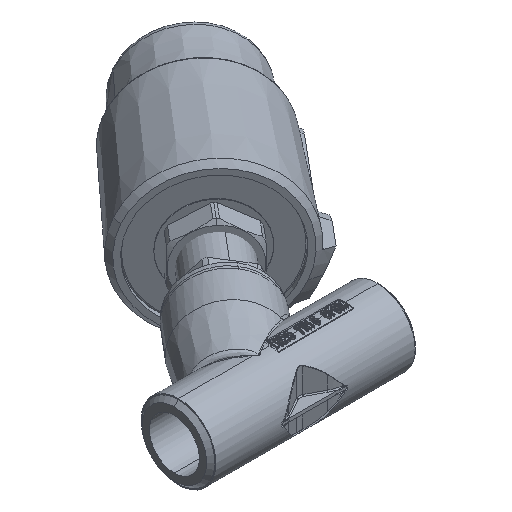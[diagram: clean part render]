
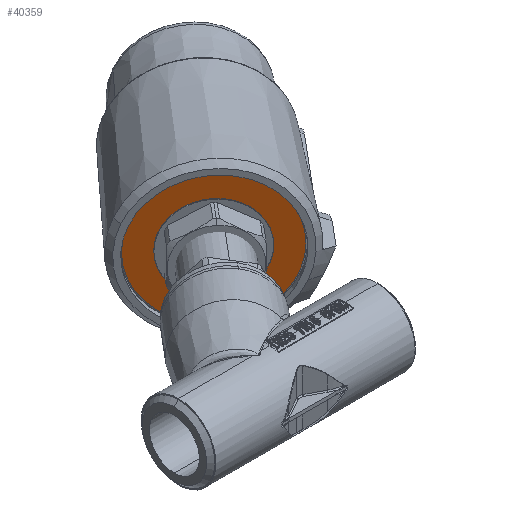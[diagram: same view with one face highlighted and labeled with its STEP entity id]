
A CAD part, isometric view. The second image highlights one B-rep face of the part: STEP entity #40359.
In plain terms, the highlighted planar face has unit normal (-0.643, -0.766, 0) as drawn and (0, -1, 0) by its records, which use the part's own axes.
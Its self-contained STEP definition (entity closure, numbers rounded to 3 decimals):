
#198 = CARTESIAN_POINT ( 'NONE',  ( 0., 0., 31.5 ) ) ;
#1266 = DIRECTION ( 'NONE',  ( 0., 1., 0. ) ) ;
#1757 = ORIENTED_EDGE ( 'NONE', *, *, #45800, .T. ) ;
#1774 = AXIS2_PLACEMENT_3D ( 'NONE', #32465, #1266, #26345 ) ;
#2031 = ORIENTED_EDGE ( 'NONE', *, *, #21799, .F. ) ;
#2705 = DIRECTION ( 'NONE',  ( 0., 0., 1. ) ) ;
#3542 = DIRECTION ( 'NONE',  ( 0., -1., 0. ) ) ;
#5604 = AXIS2_PLACEMENT_3D ( 'NONE', #25024, #3542, #28637 ) ;
#5991 = DIRECTION ( 'NONE',  ( 0., -1., 0. ) ) ;
#6356 = CIRCLE ( 'NONE', #29098, 31.5 ) ;
#6730 = FACE_OUTER_BOUND ( 'NONE', #21773, .T. ) ;
#9158 = VERTEX_POINT ( 'NONE', #16240 ) ;
#11514 = CARTESIAN_POINT ( 'NONE',  ( 0., 0., 20.5 ) ) ;
#13927 = CIRCLE ( 'NONE', #21661, 31.5 ) ;
#15531 = PLANE ( 'NONE',  #1774 ) ;
#16240 = CARTESIAN_POINT ( 'NONE',  ( 0., 0., -31.5 ) ) ;
#17055 = VERTEX_POINT ( 'NONE', #11514 ) ;
#19679 = EDGE_CURVE ( 'NONE', #24593, #17055, #35670, .T. ) ;
#19827 = DIRECTION ( 'NONE',  ( 0., -1., 0. ) ) ;
#21074 = VERTEX_POINT ( 'NONE', #198 ) ;
#21661 = AXIS2_PLACEMENT_3D ( 'NONE', #45569, #24161, #2705 ) ;
#21773 = EDGE_LOOP ( 'NONE', ( #44835, #1757 ) ) ;
#21799 = EDGE_CURVE ( 'NONE', #17055, #24593, #41736, .T. ) ;
#23960 = EDGE_LOOP ( 'NONE', ( #2031, #33352 ) ) ;
#24161 = DIRECTION ( 'NONE',  ( 0., -1., 0. ) ) ;
#24541 = AXIS2_PLACEMENT_3D ( 'NONE', #41263, #19827, #44847 ) ;
#24593 = VERTEX_POINT ( 'NONE', #45077 ) ;
#24687 = FACE_BOUND ( 'NONE', #23960, .T. ) ;
#25024 = CARTESIAN_POINT ( 'NONE',  ( 0., 0., 0. ) ) ;
#26295 = EDGE_CURVE ( 'NONE', #21074, #9158, #6356, .T. ) ;
#26345 = DIRECTION ( 'NONE',  ( 0., 0., 1. ) ) ;
#27481 = CARTESIAN_POINT ( 'NONE',  ( 0., 0., 0. ) ) ;
#28637 = DIRECTION ( 'NONE',  ( 0., 0., -1. ) ) ;
#29098 = AXIS2_PLACEMENT_3D ( 'NONE', #27481, #5991, #31088 ) ;
#31088 = DIRECTION ( 'NONE',  ( 0., 0., 1. ) ) ;
#32465 = CARTESIAN_POINT ( 'NONE',  ( 0., 0., 0. ) ) ;
#33352 = ORIENTED_EDGE ( 'NONE', *, *, #19679, .F. ) ;
#35670 = CIRCLE ( 'NONE', #24541, 20.5 ) ;
#40359 = ADVANCED_FACE ( 'NONE', ( #6730, #24687 ), #15531, .F. ) ;
#41263 = CARTESIAN_POINT ( 'NONE',  ( 0., 0., 0. ) ) ;
#41736 = CIRCLE ( 'NONE', #5604, 20.5 ) ;
#44835 = ORIENTED_EDGE ( 'NONE', *, *, #26295, .T. ) ;
#44847 = DIRECTION ( 'NONE',  ( 0., 0., -1. ) ) ;
#45077 = CARTESIAN_POINT ( 'NONE',  ( 0., 0., -20.5 ) ) ;
#45569 = CARTESIAN_POINT ( 'NONE',  ( 0., 0., 0. ) ) ;
#45800 = EDGE_CURVE ( 'NONE', #9158, #21074, #13927, .T. ) ;
